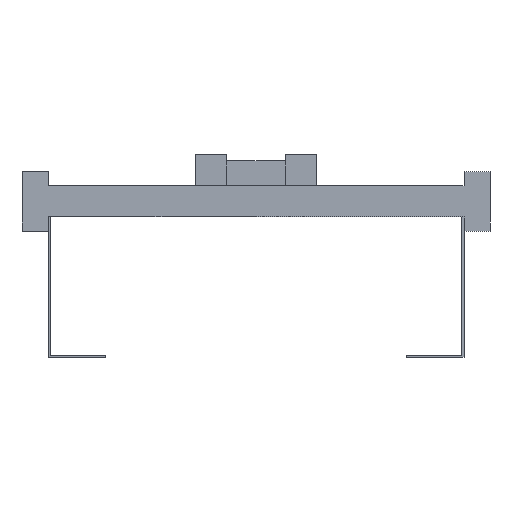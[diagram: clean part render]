
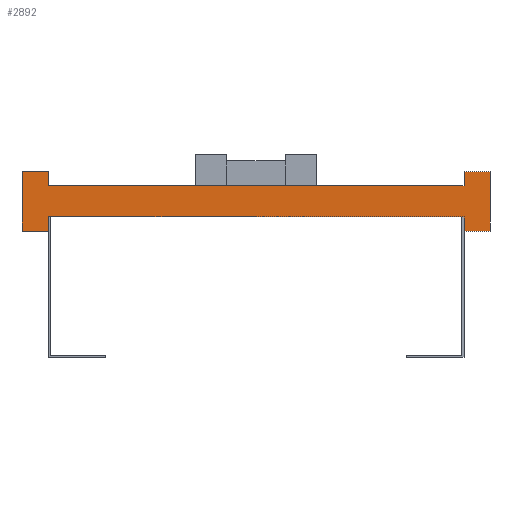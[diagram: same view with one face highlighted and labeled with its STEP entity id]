
A CAD part, front view. The second image highlights one B-rep face of the part: STEP entity #2892.
In plain terms, the highlighted planar face has unit normal (0, -1, 0).
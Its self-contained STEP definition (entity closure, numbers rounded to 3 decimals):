
#1=DIRECTION('',(0.,0.,1.));
#2=VECTOR('',#1,13.5);
#3=CARTESIAN_POINT('',(200.,0.,-28.5));
#4=LINE('',#3,#2);
#5=DIRECTION('',(0.,0.,-1.));
#6=VECTOR('',#5,13.5);
#7=CARTESIAN_POINT('',(-200.,0.,-15.));
#8=LINE('',#7,#6);
#9=DIRECTION('',(-1.,0.,0.));
#10=VECTOR('',#9,25.);
#11=CARTESIAN_POINT('',(-200.,0.,-28.5));
#12=LINE('',#11,#10);
#13=DIRECTION('',(0.,0.,1.));
#14=VECTOR('',#13,57.);
#15=CARTESIAN_POINT('',(-225.,0.,-28.5));
#16=LINE('',#15,#14);
#17=DIRECTION('',(1.,0.,0.));
#18=VECTOR('',#17,25.);
#19=CARTESIAN_POINT('',(-225.,0.,28.5));
#20=LINE('',#19,#18);
#21=DIRECTION('',(0.,0.,-1.));
#22=VECTOR('',#21,13.5);
#23=CARTESIAN_POINT('',(-200.,0.,28.5));
#24=LINE('',#23,#22);
#25=DIRECTION('',(0.,0.,1.));
#26=VECTOR('',#25,13.5);
#27=CARTESIAN_POINT('',(200.,0.,15.));
#28=LINE('',#27,#26);
#29=DIRECTION('',(1.,0.,0.));
#30=VECTOR('',#29,25.);
#31=CARTESIAN_POINT('',(200.,0.,28.5));
#32=LINE('',#31,#30);
#33=DIRECTION('',(0.,0.,-1.));
#34=VECTOR('',#33,57.);
#35=CARTESIAN_POINT('',(225.,0.,28.5));
#36=LINE('',#35,#34);
#37=DIRECTION('',(-1.,0.,0.));
#38=VECTOR('',#37,25.);
#39=CARTESIAN_POINT('',(225.,0.,-28.5));
#40=LINE('',#39,#38);
#2169=DIRECTION('',(1.,0.,0.));
#2170=VECTOR('',#2169,400.);
#2171=CARTESIAN_POINT('',(-200.,0.,-15.));
#2172=LINE('',#2171,#2170);
#2181=DIRECTION('',(1.,0.,0.));
#2182=VECTOR('',#2181,400.);
#2183=CARTESIAN_POINT('',(-200.,0.,15.));
#2184=LINE('',#2183,#2182);
#2185=CARTESIAN_POINT('',(-225.,0.,28.5));
#2186=CARTESIAN_POINT('',(-200.,0.,28.5));
#2187=VERTEX_POINT('',#2185);
#2188=VERTEX_POINT('',#2186);
#2189=CARTESIAN_POINT('',(-200.,0.,-28.5));
#2190=CARTESIAN_POINT('',(-225.,0.,-28.5));
#2191=VERTEX_POINT('',#2189);
#2192=VERTEX_POINT('',#2190);
#2193=CARTESIAN_POINT('',(225.,0.,28.5));
#2194=CARTESIAN_POINT('',(225.,0.,-28.5));
#2195=VERTEX_POINT('',#2193);
#2196=VERTEX_POINT('',#2194);
#2197=CARTESIAN_POINT('',(200.,0.,-28.5));
#2198=VERTEX_POINT('',#2197);
#2199=CARTESIAN_POINT('',(200.,0.,28.5));
#2200=VERTEX_POINT('',#2199);
#2217=CARTESIAN_POINT('',(-200.,0.,-15.));
#2219=VERTEX_POINT('',#2217);
#2221=CARTESIAN_POINT('',(-200.,0.,15.));
#2223=VERTEX_POINT('',#2221);
#2225=CARTESIAN_POINT('',(200.,0.,-15.));
#2227=VERTEX_POINT('',#2225);
#2229=CARTESIAN_POINT('',(200.,0.,15.));
#2231=VERTEX_POINT('',#2229);
#2861=CARTESIAN_POINT('',(0.,0.,0.));
#2862=DIRECTION('',(0.,1.,0.));
#2863=DIRECTION('',(1.,0.,0.));
#2864=AXIS2_PLACEMENT_3D('',#2861,#2862,#2863);
#2865=PLANE('',#2864);
#2867=ORIENTED_EDGE('',*,*,#2866,.T.);
#2869=ORIENTED_EDGE('',*,*,#2868,.F.);
#2871=ORIENTED_EDGE('',*,*,#2870,.T.);
#2873=ORIENTED_EDGE('',*,*,#2872,.T.);
#2875=ORIENTED_EDGE('',*,*,#2874,.T.);
#2877=ORIENTED_EDGE('',*,*,#2876,.T.);
#2879=ORIENTED_EDGE('',*,*,#2878,.T.);
#2881=ORIENTED_EDGE('',*,*,#2880,.T.);
#2883=ORIENTED_EDGE('',*,*,#2882,.T.);
#2885=ORIENTED_EDGE('',*,*,#2884,.T.);
#2887=ORIENTED_EDGE('',*,*,#2886,.T.);
#2889=ORIENTED_EDGE('',*,*,#2888,.T.);
#2890=EDGE_LOOP('',(#2867,#2869,#2871,#2873,#2875,#2877,#2879,#2881,#2883,#2885,
#2887,#2889));
#2891=FACE_OUTER_BOUND('',#2890,.F.);
#2892=ADVANCED_FACE('',(#2891),#2865,.F.);
#2866=EDGE_CURVE('',#2198,#2227,#4,.T.);
#2868=EDGE_CURVE('',#2219,#2227,#2172,.T.);
#2870=EDGE_CURVE('',#2219,#2191,#8,.T.);
#2872=EDGE_CURVE('',#2191,#2192,#12,.T.);
#2874=EDGE_CURVE('',#2192,#2187,#16,.T.);
#2876=EDGE_CURVE('',#2187,#2188,#20,.T.);
#2878=EDGE_CURVE('',#2188,#2223,#24,.T.);
#2880=EDGE_CURVE('',#2223,#2231,#2184,.T.);
#2882=EDGE_CURVE('',#2231,#2200,#28,.T.);
#2884=EDGE_CURVE('',#2200,#2195,#32,.T.);
#2886=EDGE_CURVE('',#2195,#2196,#36,.T.);
#2888=EDGE_CURVE('',#2196,#2198,#40,.T.);
